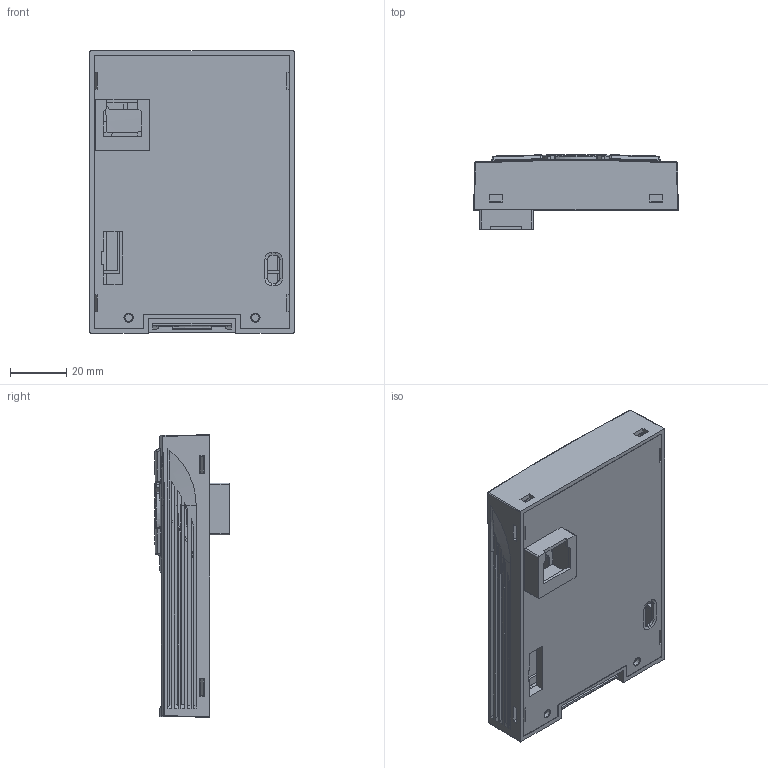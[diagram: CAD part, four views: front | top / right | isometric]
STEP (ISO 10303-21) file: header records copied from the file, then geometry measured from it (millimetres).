
FILE_DESCRIPTION(('STEP AP203'), '1');
FILE_NAME('INMX-KP-LCD _ Ïàíåëü óïðàâëåíèÿ ñ êëàâèàòóðîé', '2026-04-29T11:42:26', ('admin'), (''), 'C3D Converter', 'C3D Toolkit', '');
FILE_SCHEMA(('CONFIG_CONTROL_DESIGN'));
Length unit declared in the file: millimetre
Products named in the file (4): INMX-KP-LCD; CA700-1R5-SJ-05_A_7; CA700-1R5-SJ-11_A_14; CA700-1R5-GJ-01_A_6
Assembly tree (3 placements, depth 2):
  INMX-KP-LCD
    CA700-1R5-SJ-05_A_7
    CA700-1R5-SJ-11_A_14
    CA700-1R5-GJ-01_A_6
Bounding box: 72.59 x 26.5 x 100.16 mm (x, y, z)
Volume: 40587.4 mm3; surface area: 57860.4 mm2
Topology: 3 solids, 3 shells, 1643 faces, 4311 edges, 2687 vertices
Faces by surface type: plane 755, cylinder 424, bspline 271, torus 84, cone 50, sphere 30, extrusion 29
Full cylindrical faces by diameter (mm): 3.6 x1, 5 x1
Entity records: 88898 total; most frequent: CARTESIAN_POINT 38614, ORIENTED_EDGE 8512, DIRECTION 6335, EDGE_CURVE 4256, VERTEX_POINT 2684, VECTOR 2367, LINE 2338, AXIS2_PLACEMENT_3D 1984
